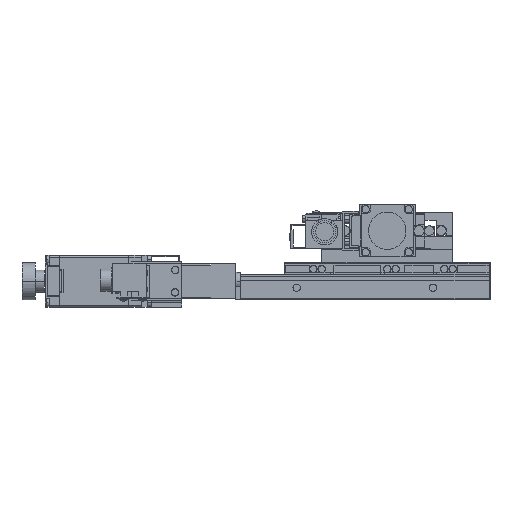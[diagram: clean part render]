
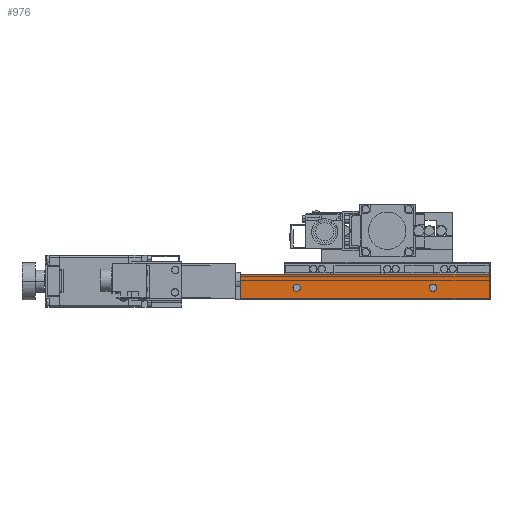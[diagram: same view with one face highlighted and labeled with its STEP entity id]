
A CAD part, front view. The second image highlights one B-rep face of the part: STEP entity #976.
In plain terms, the highlighted planar face has unit normal (0, -1, 0).
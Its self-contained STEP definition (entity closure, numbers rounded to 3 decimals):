
#976=ADVANCED_FACE('',(#2901,#2902,#2903),#2904,.F.);
#2901=FACE_BOUND('',#6211,.T.);
#2902=FACE_OUTER_BOUND('',#6212,.T.);
#2903=FACE_BOUND('',#6213,.T.);
#2904=PLANE('',#6214);
#6211=EDGE_LOOP('',(#11376,#11377));
#6212=EDGE_LOOP('',(#11378,#11379,#11380,#11381));
#6213=EDGE_LOOP('',(#11382,#11383));
#6214=AXIS2_PLACEMENT_3D('',#11384,#11385,#11386);
#11376=ORIENTED_EDGE('',*,*,#22024,.F.);
#11377=ORIENTED_EDGE('',*,*,#22047,.F.);
#11378=ORIENTED_EDGE('',*,*,#22048,.T.);
#11379=ORIENTED_EDGE('',*,*,#22049,.F.);
#11380=ORIENTED_EDGE('',*,*,#22050,.F.);
#11381=ORIENTED_EDGE('',*,*,#22051,.T.);
#11382=ORIENTED_EDGE('',*,*,#22020,.F.);
#11383=ORIENTED_EDGE('',*,*,#22052,.F.);
#11384=CARTESIAN_POINT('',(54.5,-51.8,13.5));
#11385=DIRECTION('',(0.,1.0,0.));
#11386=DIRECTION('',(0.,0.,-1.0));
#22020=EDGE_CURVE('',#26421,#26417,#26423,.F.);
#22024=EDGE_CURVE('',#26429,#26425,#26431,.F.);
#22047=EDGE_CURVE('',#26425,#26429,#26472,.F.);
#22048=EDGE_CURVE('',#26473,#26474,#26475,.T.);
#22049=EDGE_CURVE('',#26476,#26474,#26477,.T.);
#22050=EDGE_CURVE('',#26478,#26476,#26479,.T.);
#22051=EDGE_CURVE('',#26478,#26473,#26480,.T.);
#22052=EDGE_CURVE('',#26417,#26421,#26481,.F.);
#26417=VERTEX_POINT('',#33294);
#26421=VERTEX_POINT('',#33299);
#26423=CIRCLE('',#33302,1.95);
#26425=VERTEX_POINT('',#33304);
#26429=VERTEX_POINT('',#33309);
#26431=CIRCLE('',#33312,1.95);
#26472=CIRCLE('',#33367,1.95);
#26473=VERTEX_POINT('',#33368);
#26474=VERTEX_POINT('',#33369);
#26475=LINE('',#33370,#33371);
#26476=VERTEX_POINT('',#33372);
#26477=LINE('',#33373,#33374);
#26478=VERTEX_POINT('',#33375);
#26479=LINE('',#33376,#33377);
#26480=LINE('',#33378,#33379);
#26481=CIRCLE('',#33380,1.95);
#33294=CARTESIAN_POINT('',(26.45,-51.8,6.5));
#33299=CARTESIAN_POINT('',(22.55,-51.8,6.5));
#33302=AXIS2_PLACEMENT_3D('',#42408,#42409,#42410);
#33304=CARTESIAN_POINT('',(-46.55,-51.8,6.5));
#33309=CARTESIAN_POINT('',(-50.45,-51.8,6.5));
#33312=AXIS2_PLACEMENT_3D('',#42416,#42417,#42418);
#33367=AXIS2_PLACEMENT_3D('',#42457,#42458,#42459);
#33368=CARTESIAN_POINT('',(-78.5,-51.8,13.5));
#33369=CARTESIAN_POINT('',(-78.5,-51.8,0.5));
#33370=CARTESIAN_POINT('',(-78.5,-51.8,13.5));
#33371=VECTOR('',#42460,1000.0);
#33372=CARTESIAN_POINT('',(54.5,-51.8,0.5));
#33373=CARTESIAN_POINT('',(54.5,-51.8,0.5));
#33374=VECTOR('',#42461,1000.0);
#33375=CARTESIAN_POINT('',(54.5,-51.8,13.5));
#33376=CARTESIAN_POINT('',(54.5,-51.8,13.5));
#33377=VECTOR('',#42462,1000.0);
#33378=CARTESIAN_POINT('',(54.5,-51.8,13.5));
#33379=VECTOR('',#42463,1000.0);
#33380=AXIS2_PLACEMENT_3D('',#42464,#42465,#42466);
#42408=CARTESIAN_POINT('',(24.5,-51.8,6.5));
#42409=DIRECTION('',(0.,1.0,0.));
#42410=DIRECTION('',(-1.0,0.,0.));
#42416=CARTESIAN_POINT('',(-48.5,-51.8,6.5));
#42417=DIRECTION('',(0.,1.0,0.));
#42418=DIRECTION('',(-1.0,0.,0.));
#42457=CARTESIAN_POINT('',(-48.5,-51.8,6.5));
#42458=DIRECTION('',(0.,1.0,0.));
#42459=DIRECTION('',(-1.0,0.,0.));
#42460=DIRECTION('',(0.,0.,-1.0));
#42461=DIRECTION('',(-1.0,0.,0.));
#42462=DIRECTION('',(0.,0.,-1.0));
#42463=DIRECTION('',(-1.0,0.,0.));
#42464=CARTESIAN_POINT('',(24.5,-51.8,6.5));
#42465=DIRECTION('',(0.,1.0,0.));
#42466=DIRECTION('',(-1.0,0.,0.));
